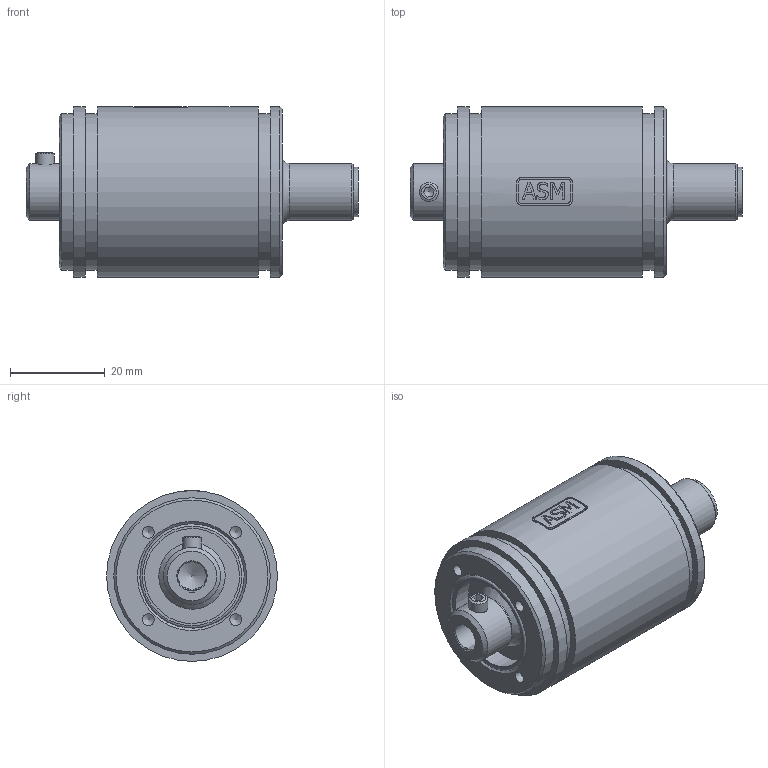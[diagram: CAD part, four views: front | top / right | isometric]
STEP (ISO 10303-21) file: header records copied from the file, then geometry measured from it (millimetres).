
FILE_DESCRIPTION((''),'2;1');
FILE_NAME('K:\Daten\pras3-m12a.stp','2010-03-08T17:48:51',('kamp'),(''),'Autodesk Inventor 2008','Autodesk Inventor 2008','');
FILE_SCHEMA(('AUTOMOTIVE_DESIGN { 1 0 10303 214 1 1 1 1 }'));
Length unit declared in the file: millimetre
Products named in the file (1): Bauteil17
Bounding box: 70 x 36 x 36 mm (x, y, z)
Volume: 47029.3 mm3; surface area: 10232.1 mm2
Topology: 1 solids, 1 shells, 160 faces, 413 edges, 270 vertices
Faces by surface type: plane 77, cylinder 37, bspline 29, cone 10, sphere 5, torus 2
Full cylindrical faces by diameter (mm): 1 x5, 4 x1, 8.3 x1, 10 x1, 10.4 x1, 12 x2, 14 x1, 20 x1, 21 x1, 33 x3, 36 x3
Entity records: 5112 total; most frequent: CARTESIAN_POINT 1503, ORIENTED_EDGE 680, DIRECTION 668, EDGE_CURVE 340, AXIS2_PLACEMENT_3D 251, VERTEX_POINT 251, EDGE_LOOP 229, VECTOR 166
